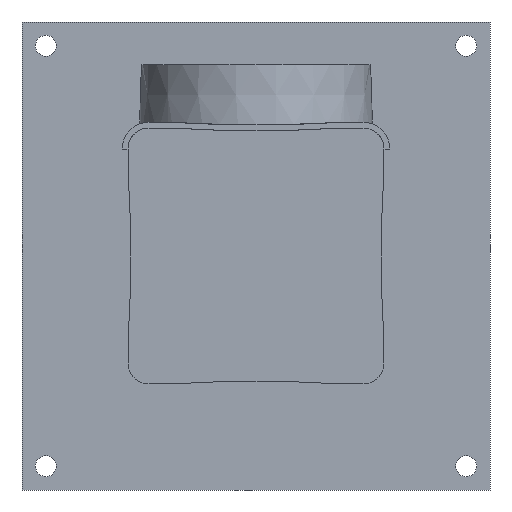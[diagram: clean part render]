
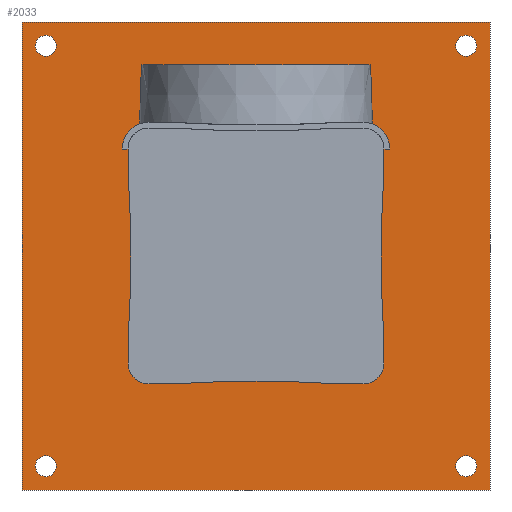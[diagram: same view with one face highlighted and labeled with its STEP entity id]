
A CAD part, front view. The second image highlights one B-rep face of the part: STEP entity #2033.
In plain terms, the highlighted planar face has unit normal (0, -1, 0) as drawn and (0, 0, -1) by its records, which use the part's own axes.
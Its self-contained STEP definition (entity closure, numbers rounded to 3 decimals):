
#1786=DIRECTION('',(0.,1.,0.));
#1787=VECTOR('',#1786,245.);
#1788=CARTESIAN_POINT('',(122.5,-122.5,0.));
#1789=LINE('',#1788,#1787);
#1790=DIRECTION('',(-1.,0.,0.));
#1791=VECTOR('',#1790,245.);
#1792=CARTESIAN_POINT('',(122.5,122.5,0.));
#1793=LINE('',#1792,#1791);
#1794=DIRECTION('',(0.,-1.,0.));
#1795=VECTOR('',#1794,245.);
#1796=CARTESIAN_POINT('',(-122.5,122.5,0.));
#1797=LINE('',#1796,#1795);
#1798=DIRECTION('',(1.,0.,0.));
#1799=VECTOR('',#1798,245.);
#1800=CARTESIAN_POINT('',(-122.5,-122.5,0.));
#1801=LINE('',#1800,#1799);
#1802=CARTESIAN_POINT('',(110.,-110.,0.));
#1803=DIRECTION('',(0.,0.,-1.));
#1804=DIRECTION('',(-1.,0.,0.));
#1805=AXIS2_PLACEMENT_3D('',#1802,#1803,#1804);
#1807=CARTESIAN_POINT('',(110.,-110.,0.));
#1808=DIRECTION('',(0.,0.,-1.));
#1809=DIRECTION('',(1.,0.,0.));
#1810=AXIS2_PLACEMENT_3D('',#1807,#1808,#1809);
#1812=CARTESIAN_POINT('',(110.,110.,0.));
#1813=DIRECTION('',(0.,0.,-1.));
#1814=DIRECTION('',(-1.,0.,0.));
#1815=AXIS2_PLACEMENT_3D('',#1812,#1813,#1814);
#1817=CARTESIAN_POINT('',(110.,110.,0.));
#1818=DIRECTION('',(0.,0.,-1.));
#1819=DIRECTION('',(1.,0.,0.));
#1820=AXIS2_PLACEMENT_3D('',#1817,#1818,#1819);
#1822=CARTESIAN_POINT('',(-110.,-110.,0.));
#1823=DIRECTION('',(0.,0.,-1.));
#1824=DIRECTION('',(-1.,0.,0.));
#1825=AXIS2_PLACEMENT_3D('',#1822,#1823,#1824);
#1827=CARTESIAN_POINT('',(-110.,-110.,0.));
#1828=DIRECTION('',(0.,0.,-1.));
#1829=DIRECTION('',(1.,0.,0.));
#1830=AXIS2_PLACEMENT_3D('',#1827,#1828,#1829);
#1832=CARTESIAN_POINT('',(-110.,110.,0.));
#1833=DIRECTION('',(0.,0.,-1.));
#1834=DIRECTION('',(-1.,0.,0.));
#1835=AXIS2_PLACEMENT_3D('',#1832,#1833,#1834);
#1837=CARTESIAN_POINT('',(-110.,110.,0.));
#1838=DIRECTION('',(0.,0.,-1.));
#1839=DIRECTION('',(1.,0.,0.));
#1840=AXIS2_PLACEMENT_3D('',#1837,#1838,#1839);
#1946=CARTESIAN_POINT('',(122.5,-122.5,0.));
#1947=CARTESIAN_POINT('',(122.5,122.5,0.));
#1948=VERTEX_POINT('',#1946);
#1949=VERTEX_POINT('',#1947);
#1950=CARTESIAN_POINT('',(-122.5,122.5,0.));
#1951=VERTEX_POINT('',#1950);
#1952=CARTESIAN_POINT('',(-122.5,-122.5,0.));
#1953=VERTEX_POINT('',#1952);
#1962=CARTESIAN_POINT('',(104.5,-110.,0.));
#1963=CARTESIAN_POINT('',(115.5,-110.,0.));
#1964=VERTEX_POINT('',#1962);
#1965=VERTEX_POINT('',#1963);
#1970=CARTESIAN_POINT('',(104.5,110.,0.));
#1971=CARTESIAN_POINT('',(115.5,110.,0.));
#1972=VERTEX_POINT('',#1970);
#1973=VERTEX_POINT('',#1971);
#1978=CARTESIAN_POINT('',(-115.5,-110.,0.));
#1979=CARTESIAN_POINT('',(-104.5,-110.,0.));
#1980=VERTEX_POINT('',#1978);
#1981=VERTEX_POINT('',#1979);
#1986=CARTESIAN_POINT('',(-115.5,110.,0.));
#1987=CARTESIAN_POINT('',(-104.5,110.,0.));
#1988=VERTEX_POINT('',#1986);
#1989=VERTEX_POINT('',#1987);
#1994=CARTESIAN_POINT('',(0.,0.,0.));
#1995=DIRECTION('',(0.,0.,1.));
#1996=DIRECTION('',(1.,0.,0.));
#1997=AXIS2_PLACEMENT_3D('',#1994,#1995,#1996);
#1998=PLANE('',#1997);
#2000=ORIENTED_EDGE('',*,*,#1999,.T.);
#2002=ORIENTED_EDGE('',*,*,#2001,.T.);
#2004=ORIENTED_EDGE('',*,*,#2003,.T.);
#2006=ORIENTED_EDGE('',*,*,#2005,.T.);
#2007=EDGE_LOOP('',(#2000,#2002,#2004,#2006));
#2008=FACE_OUTER_BOUND('',#2007,.F.);
#2010=ORIENTED_EDGE('',*,*,#2009,.T.);
#2012=ORIENTED_EDGE('',*,*,#2011,.T.);
#2013=EDGE_LOOP('',(#2010,#2012));
#2014=FACE_BOUND('',#2013,.F.);
#2016=ORIENTED_EDGE('',*,*,#2015,.T.);
#2018=ORIENTED_EDGE('',*,*,#2017,.T.);
#2019=EDGE_LOOP('',(#2016,#2018));
#2020=FACE_BOUND('',#2019,.F.);
#2022=ORIENTED_EDGE('',*,*,#2021,.T.);
#2024=ORIENTED_EDGE('',*,*,#2023,.T.);
#2025=EDGE_LOOP('',(#2022,#2024));
#2026=FACE_BOUND('',#2025,.F.);
#2028=ORIENTED_EDGE('',*,*,#2027,.T.);
#2030=ORIENTED_EDGE('',*,*,#2029,.T.);
#2031=EDGE_LOOP('',(#2028,#2030));
#2032=FACE_BOUND('',#2031,.F.);
#1806=CIRCLE('',#1805,5.5);
#1811=CIRCLE('',#1810,5.5);
#1816=CIRCLE('',#1815,5.5);
#1821=CIRCLE('',#1820,5.5);
#1826=CIRCLE('',#1825,5.5);
#1831=CIRCLE('',#1830,5.5);
#1836=CIRCLE('',#1835,5.5);
#1841=CIRCLE('',#1840,5.5);
#1999=EDGE_CURVE('',#1948,#1949,#1789,.T.);
#2001=EDGE_CURVE('',#1949,#1951,#1793,.T.);
#2003=EDGE_CURVE('',#1951,#1953,#1797,.T.);
#2005=EDGE_CURVE('',#1953,#1948,#1801,.T.);
#2009=EDGE_CURVE('',#1964,#1965,#1806,.T.);
#2011=EDGE_CURVE('',#1965,#1964,#1811,.T.);
#2015=EDGE_CURVE('',#1972,#1973,#1816,.T.);
#2017=EDGE_CURVE('',#1973,#1972,#1821,.T.);
#2021=EDGE_CURVE('',#1980,#1981,#1826,.T.);
#2023=EDGE_CURVE('',#1981,#1980,#1831,.T.);
#2027=EDGE_CURVE('',#1988,#1989,#1836,.T.);
#2029=EDGE_CURVE('',#1989,#1988,#1841,.T.);
#2033=ADVANCED_FACE('',(#2008,#2014,#2020,#2026,#2032),#1998,.F.);
